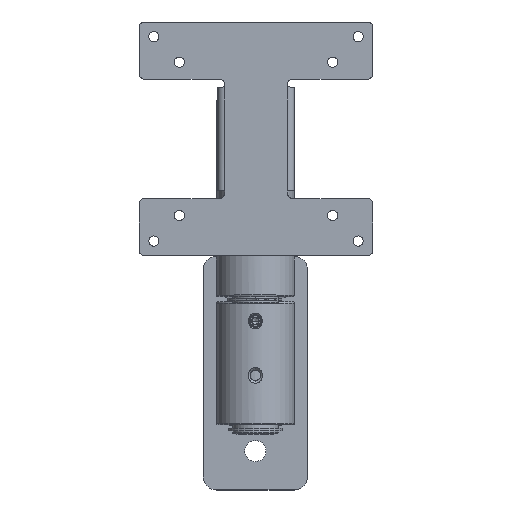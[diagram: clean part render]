
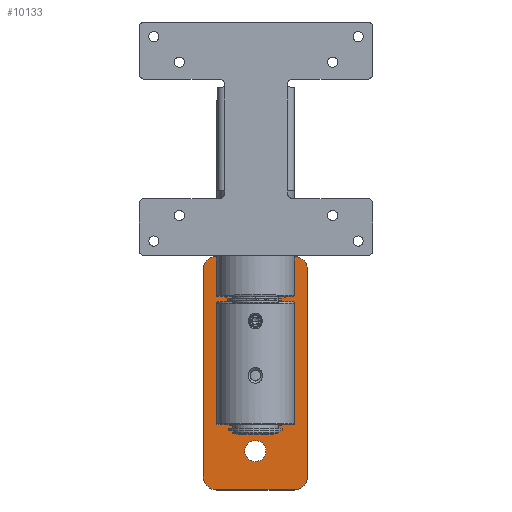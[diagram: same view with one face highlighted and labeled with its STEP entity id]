
A CAD part, top view. The second image highlights one B-rep face of the part: STEP entity #10133.
In plain terms, the highlighted planar face has unit normal (0, 0, 1).
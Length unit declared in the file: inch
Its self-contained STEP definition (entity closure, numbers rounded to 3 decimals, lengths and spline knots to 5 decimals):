
#190 = LINE ( 'NONE', #22223, #10755 ) ;
#210 = EDGE_CURVE ( 'NONE', #16486, #1682, #10113, .T. ) ;
#255 = DIRECTION ( 'NONE',  ( 1., 0., 0. ) ) ;
#379 = DIRECTION ( 'NONE',  ( 0., 0., 1. ) ) ;
#422 = VERTEX_POINT ( 'NONE', #7993 ) ;
#504 = DIRECTION ( 'NONE',  ( 0., 0., 1. ) ) ;
#579 = AXIS2_PLACEMENT_3D ( 'NONE', #7640, #379, #7771 ) ;
#899 = VERTEX_POINT ( 'NONE', #23770 ) ;
#1102 = AXIS2_PLACEMENT_3D ( 'NONE', #23815, #11103, #5548 ) ;
#1139 = CIRCLE ( 'NONE', #2704, 0.25 ) ;
#1381 = CARTESIAN_POINT ( 'NONE',  ( 0., 1.5, 0.25 ) ) ;
#1455 = EDGE_CURVE ( 'NONE', #20451, #16707, #21439, .T. ) ;
#1606 = DIRECTION ( 'NONE',  ( 0., 0., 1. ) ) ;
#1682 = VERTEX_POINT ( 'NONE', #11987 ) ;
#1770 = ORIENTED_EDGE ( 'NONE', *, *, #23047, .F. ) ;
#2163 = CARTESIAN_POINT ( 'NONE',  ( 1., -2.25, 0.25 ) ) ;
#2386 = FACE_BOUND ( 'NONE', #8091, .T. ) ;
#2663 = CARTESIAN_POINT ( 'NONE',  ( 0.203, -1.5, 0.25 ) ) ;
#2704 = AXIS2_PLACEMENT_3D ( 'NONE', #17173, #504, #4387 ) ;
#2872 = EDGE_CURVE ( 'NONE', #14556, #20106, #9185, .T. ) ;
#3035 = EDGE_CURVE ( 'NONE', #13882, #16486, #13798, .T. ) ;
#3168 = EDGE_CURVE ( 'NONE', #9012, #422, #8958, .T. ) ;
#3427 = CARTESIAN_POINT ( 'NONE',  ( 0.75, -2.25, 0.25 ) ) ;
#3883 = VECTOR ( 'NONE', #12359, 39.37008 ) ;
#4387 = DIRECTION ( 'NONE',  ( -1., 0., 0. ) ) ;
#4504 = CARTESIAN_POINT ( 'NONE',  ( -0.203, -1.5, 0.25 ) ) ;
#4661 = DIRECTION ( 'NONE',  ( -1., 0., 0. ) ) ;
#5142 = CARTESIAN_POINT ( 'NONE',  ( -0.75, 2.25, 0.25 ) ) ;
#5451 = CIRCLE ( 'NONE', #20515, 0.25 ) ;
#5473 = CARTESIAN_POINT ( 'NONE',  ( -0.203, 1.5, 0.25 ) ) ;
#5548 = DIRECTION ( 'NONE',  ( 1., 0., 0. ) ) ;
#5597 = EDGE_CURVE ( 'NONE', #1682, #20451, #190, .T. ) ;
#5745 = CARTESIAN_POINT ( 'NONE',  ( -0.75, -2.25, 0.25 ) ) ;
#6001 = DIRECTION ( 'NONE',  ( 0., 1., 0. ) ) ;
#6407 = EDGE_CURVE ( 'NONE', #21771, #9012, #1139, .T. ) ;
#7640 = CARTESIAN_POINT ( 'NONE',  ( 0.75, 2., 0.25 ) ) ;
#7703 = ORIENTED_EDGE ( 'NONE', *, *, #1455, .T. ) ;
#7771 = DIRECTION ( 'NONE',  ( -1., 0., 0. ) ) ;
#7993 = CARTESIAN_POINT ( 'NONE',  ( -1., -2., 0.25 ) ) ;
#8091 = EDGE_LOOP ( 'NONE', ( #14449, #19680 ) ) ;
#8128 = CARTESIAN_POINT ( 'NONE',  ( 0., 1.5, 0.25 ) ) ;
#8932 = ORIENTED_EDGE ( 'NONE', *, *, #17776, .T. ) ;
#8958 = LINE ( 'NONE', #12226, #3883 ) ;
#9012 = VERTEX_POINT ( 'NONE', #14794 ) ;
#9185 = CIRCLE ( 'NONE', #14591, 0.203 ) ;
#9414 = DIRECTION ( 'NONE',  ( 1., 0., 0. ) ) ;
#9464 = EDGE_LOOP ( 'NONE', ( #17229, #21878, #11102, #11593, #11662, #7703, #8932, #23697 ) ) ;
#10016 = DIRECTION ( 'NONE',  ( 0., 0., 1. ) ) ;
#10113 = CIRCLE ( 'NONE', #12049, 0.25 ) ;
#10133 = ADVANCED_FACE ( 'NONE', ( #10222, #2386, #17348 ), #23058, .F. ) ;
#10222 = FACE_BOUND ( 'NONE', #21397, .T. ) ;
#10358 = EDGE_CURVE ( 'NONE', #422, #13882, #5451, .T. ) ;
#10755 = VECTOR ( 'NONE', #6001, 39.37008 ) ;
#11102 = ORIENTED_EDGE ( 'NONE', *, *, #3035, .T. ) ;
#11103 = DIRECTION ( 'NONE',  ( 0., 0., 1. ) ) ;
#11418 = CARTESIAN_POINT ( 'NONE',  ( 1., 2., 0.25 ) ) ;
#11593 = ORIENTED_EDGE ( 'NONE', *, *, #210, .T. ) ;
#11662 = ORIENTED_EDGE ( 'NONE', *, *, #5597, .T. ) ;
#11910 = LINE ( 'NONE', #15625, #21159 ) ;
#11987 = CARTESIAN_POINT ( 'NONE',  ( 1., -2., 0.25 ) ) ;
#11997 = DIRECTION ( 'NONE',  ( 0., 0., 1. ) ) ;
#12049 = AXIS2_PLACEMENT_3D ( 'NONE', #15688, #17272, #23004 ) ;
#12226 = CARTESIAN_POINT ( 'NONE',  ( -1., 2.25, 0.25 ) ) ;
#12231 = AXIS2_PLACEMENT_3D ( 'NONE', #8128, #11997, #19371 ) ;
#12359 = DIRECTION ( 'NONE',  ( 0., -1., 0. ) ) ;
#13032 = VERTEX_POINT ( 'NONE', #5473 ) ;
#13570 = CARTESIAN_POINT ( 'NONE',  ( 0.75, 2.25, 0.25 ) ) ;
#13620 = DIRECTION ( 'NONE',  ( -1., 0., 0. ) ) ;
#13798 = LINE ( 'NONE', #2163, #23108 ) ;
#13882 = VERTEX_POINT ( 'NONE', #5745 ) ;
#14449 = ORIENTED_EDGE ( 'NONE', *, *, #19011, .F. ) ;
#14556 = VERTEX_POINT ( 'NONE', #4504 ) ;
#14591 = AXIS2_PLACEMENT_3D ( 'NONE', #19986, #1606, #255 ) ;
#14794 = CARTESIAN_POINT ( 'NONE',  ( -1., 2., 0.25 ) ) ;
#15162 = AXIS2_PLACEMENT_3D ( 'NONE', #1381, #10016, #23543 ) ;
#15625 = CARTESIAN_POINT ( 'NONE',  ( 1., 2.25, 0.25 ) ) ;
#15688 = CARTESIAN_POINT ( 'NONE',  ( 0.75, -2., 0.25 ) ) ;
#16486 = VERTEX_POINT ( 'NONE', #3427 ) ;
#16707 = VERTEX_POINT ( 'NONE', #13570 ) ;
#16755 = EDGE_CURVE ( 'NONE', #13032, #899, #19966, .T. ) ;
#17173 = CARTESIAN_POINT ( 'NONE',  ( -0.75, 2., 0.25 ) ) ;
#17229 = ORIENTED_EDGE ( 'NONE', *, *, #3168, .T. ) ;
#17272 = DIRECTION ( 'NONE',  ( 0., 0., 1. ) ) ;
#17348 = FACE_OUTER_BOUND ( 'NONE', #9464, .T. ) ;
#17579 = DIRECTION ( 'NONE',  ( 0., 0., -1. ) ) ;
#17776 = EDGE_CURVE ( 'NONE', #16707, #21771, #11910, .T. ) ;
#18970 = AXIS2_PLACEMENT_3D ( 'NONE', #21246, #17579, #13620 ) ;
#19011 = EDGE_CURVE ( 'NONE', #20106, #14556, #19654, .T. ) ;
#19354 = ORIENTED_EDGE ( 'NONE', *, *, #16755, .F. ) ;
#19371 = DIRECTION ( 'NONE',  ( 1., 0., 0. ) ) ;
#19654 = CIRCLE ( 'NONE', #1102, 0.203 ) ;
#19680 = ORIENTED_EDGE ( 'NONE', *, *, #2872, .F. ) ;
#19966 = CIRCLE ( 'NONE', #12231, 0.203 ) ;
#19986 = CARTESIAN_POINT ( 'NONE',  ( 0., -1.5, 0.25 ) ) ;
#20106 = VERTEX_POINT ( 'NONE', #2663 ) ;
#20451 = VERTEX_POINT ( 'NONE', #11418 ) ;
#20515 = AXIS2_PLACEMENT_3D ( 'NONE', #23774, #23890, #20622 ) ;
#20622 = DIRECTION ( 'NONE',  ( -1., 0., 0. ) ) ;
#21159 = VECTOR ( 'NONE', #4661, 39.37008 ) ;
#21246 = CARTESIAN_POINT ( 'NONE',  ( 0., 0., 0.25 ) ) ;
#21397 = EDGE_LOOP ( 'NONE', ( #1770, #19354 ) ) ;
#21439 = CIRCLE ( 'NONE', #579, 0.25 ) ;
#21771 = VERTEX_POINT ( 'NONE', #5142 ) ;
#21878 = ORIENTED_EDGE ( 'NONE', *, *, #10358, .T. ) ;
#22223 = CARTESIAN_POINT ( 'NONE',  ( 1., 2.25, 0.25 ) ) ;
#22898 = CIRCLE ( 'NONE', #15162, 0.203 ) ;
#23004 = DIRECTION ( 'NONE',  ( -1., 0., 0. ) ) ;
#23047 = EDGE_CURVE ( 'NONE', #899, #13032, #22898, .T. ) ;
#23058 = PLANE ( 'NONE',  #18970 ) ;
#23108 = VECTOR ( 'NONE', #9414, 39.37008 ) ;
#23543 = DIRECTION ( 'NONE',  ( 1., 0., 0. ) ) ;
#23697 = ORIENTED_EDGE ( 'NONE', *, *, #6407, .T. ) ;
#23770 = CARTESIAN_POINT ( 'NONE',  ( 0.203, 1.5, 0.25 ) ) ;
#23774 = CARTESIAN_POINT ( 'NONE',  ( -0.75, -2., 0.25 ) ) ;
#23815 = CARTESIAN_POINT ( 'NONE',  ( 0., -1.5, 0.25 ) ) ;
#23890 = DIRECTION ( 'NONE',  ( 0., 0., 1. ) ) ;
